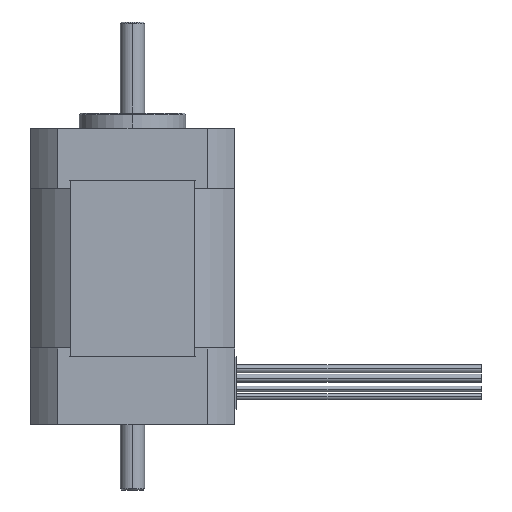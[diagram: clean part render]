
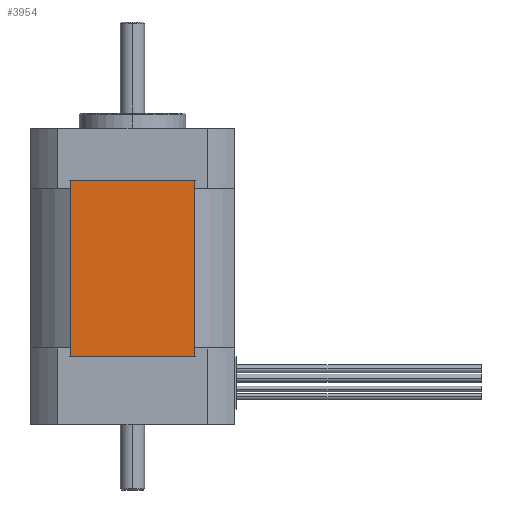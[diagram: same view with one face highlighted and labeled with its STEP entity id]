
A CAD part, left-side view. The second image highlights one B-rep face of the part: STEP entity #3954.
In plain terms, the highlighted planar face has unit normal (-1, 0, 0).
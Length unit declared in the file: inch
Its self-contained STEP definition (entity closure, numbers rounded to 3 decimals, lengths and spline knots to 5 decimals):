
#522 = FACE_OUTER_BOUND ( 'NONE', #5009, .T. ) ;
#523 = PLANE ( 'NONE',  #3498 ) ;
#535 = CARTESIAN_POINT ( 'NONE',  ( -0.826, -0.49895, -1.85 ) ) ;
#536 = DIRECTION ( 'NONE',  ( 1., 0., 0. ) ) ;
#537 = DIRECTION ( 'NONE',  ( 0., 1., 0. ) ) ;
#1982 = CARTESIAN_POINT ( 'NONE',  ( -0.826, -0.49895, -0.42 ) ) ;
#1985 = LINE ( 'NONE', #1982, #3554 ) ;
#1989 = DIRECTION ( 'NONE',  ( 0., 1., 0. ) ) ;
#2027 = LINE ( 'NONE', #2028, #3646 ) ;
#2028 = CARTESIAN_POINT ( 'NONE',  ( -0.826, -0.49895, -1.85 ) ) ;
#2029 = DIRECTION ( 'NONE',  ( 0., 1., 0. ) ) ;
#2665 = VERTEX_POINT ( 'NONE', #5192 ) ;
#2678 = VERTEX_POINT ( 'NONE', #5205 ) ;
#2687 = VERTEX_POINT ( 'NONE', #5214 ) ;
#2690 = VERTEX_POINT ( 'NONE', #5217 ) ;
#3221 = VECTOR ( 'NONE', #7878, 39.37008 ) ;
#3250 = VECTOR ( 'NONE', #7931, 39.37008 ) ;
#3498 = AXIS2_PLACEMENT_3D ( 'NONE', #535, #536, #537 ) ;
#3554 = VECTOR ( 'NONE', #1989, 39.37008 ) ;
#3646 = VECTOR ( 'NONE', #2029, 39.37008 ) ;
#3890 = EDGE_CURVE ( 'NONE', #2678, #2665, #1985, .T. ) ;
#3903 = EDGE_CURVE ( 'NONE', #2690, #2687, #2027, .T. ) ;
#3954 = ADVANCED_FACE ( 'NONE', ( #522 ), #523, .F. ) ;
#4283 = EDGE_CURVE ( 'NONE', #2690, #2678, #7853, .T. ) ;
#4301 = EDGE_CURVE ( 'NONE', #2687, #2665, #7929, .T. ) ;
#5009 = EDGE_LOOP ( 'NONE', ( #7071, #7072, #7073, #7074 ) ) ;
#5192 = CARTESIAN_POINT ( 'NONE',  ( -0.826, 0.49895, -0.42 ) ) ;
#5205 = CARTESIAN_POINT ( 'NONE',  ( -0.826, -0.49895, -0.42 ) ) ;
#5214 = CARTESIAN_POINT ( 'NONE',  ( -0.826, 0.49895, -1.85 ) ) ;
#5217 = CARTESIAN_POINT ( 'NONE',  ( -0.826, -0.49895, -1.85 ) ) ;
#7071 = ORIENTED_EDGE ( 'NONE', *, *, #3890, .T. ) ;
#7072 = ORIENTED_EDGE ( 'NONE', *, *, #4301, .F. ) ;
#7073 = ORIENTED_EDGE ( 'NONE', *, *, #3903, .F. ) ;
#7074 = ORIENTED_EDGE ( 'NONE', *, *, #4283, .T. ) ;
#7853 = LINE ( 'NONE', #7877, #3221 ) ;
#7877 = CARTESIAN_POINT ( 'NONE',  ( -0.826, -0.49895, -1.85 ) ) ;
#7878 = DIRECTION ( 'NONE',  ( 0., 0., 1. ) ) ;
#7929 = LINE ( 'NONE', #7930, #3250 ) ;
#7930 = CARTESIAN_POINT ( 'NONE',  ( -0.826, 0.49895, -1.85 ) ) ;
#7931 = DIRECTION ( 'NONE',  ( 0., 0., 1. ) ) ;
